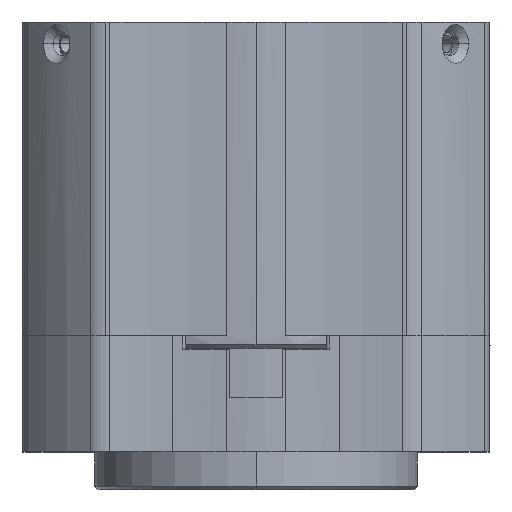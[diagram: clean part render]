
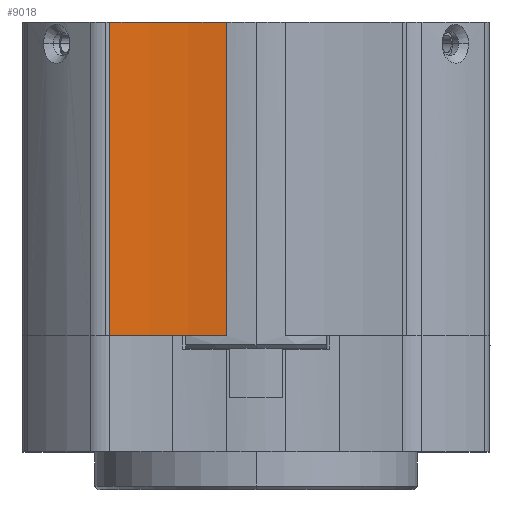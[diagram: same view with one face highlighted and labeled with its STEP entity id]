
A CAD part, top view. The second image highlights one B-rep face of the part: STEP entity #9018.
In plain terms, the highlighted cylindrical face has radius 40 mm (diameter 80 mm), a partial arc.
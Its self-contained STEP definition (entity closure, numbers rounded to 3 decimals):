
#225 = CARTESIAN_POINT ( 'NONE',  ( -13.595, 0., 21.687 ) ) ;
#1038 = CARTESIAN_POINT ( 'NONE',  ( -2.735, -1.2, 21.577 ) ) ;
#2282 = DIRECTION ( 'NONE',  ( 0., 1., 0. ) ) ;
#4067 = EDGE_LOOP ( 'NONE', ( #17159, #22544, #19550, #10196 ) ) ;
#5237 = DIRECTION ( 'NONE',  ( 0., 1., 0. ) ) ;
#7386 = DIRECTION ( 'NONE',  ( 0., -1., 0. ) ) ;
#7564 = EDGE_CURVE ( 'NONE', #25476, #40590, #43011, .T. ) ;
#9018 = ADVANCED_FACE ( 'NONE', ( #42411 ), #21890, .F. ) ;
#10196 = ORIENTED_EDGE ( 'NONE', *, *, #21429, .F. ) ;
#10234 = CARTESIAN_POINT ( 'NONE',  ( -7.764, 29.1, 61.26 ) ) ;
#13615 = DIRECTION ( 'NONE',  ( 0., -1., 0. ) ) ;
#14948 = LINE ( 'NONE', #1038, #16869 ) ;
#15106 = DIRECTION ( 'NONE',  ( 0., 0., 1. ) ) ;
#15310 = DIRECTION ( 'NONE',  ( 0., 0., 1. ) ) ;
#15527 = CARTESIAN_POINT ( 'NONE',  ( -7.764, -1.2, 61.26 ) ) ;
#15767 = EDGE_CURVE ( 'NONE', #40590, #30639, #14948, .T. ) ;
#16869 = VECTOR ( 'NONE', #5237, 1000. ) ;
#16958 = LINE ( 'NONE', #20032, #19261 ) ;
#17159 = ORIENTED_EDGE ( 'NONE', *, *, #7564, .T. ) ;
#19261 = VECTOR ( 'NONE', #33410, 1000. ) ;
#19550 = ORIENTED_EDGE ( 'NONE', *, *, #21003, .F. ) ;
#20032 = CARTESIAN_POINT ( 'NONE',  ( -13.595, -1.2, 21.687 ) ) ;
#21003 = EDGE_CURVE ( 'NONE', #38226, #30639, #30481, .T. ) ;
#21429 = EDGE_CURVE ( 'NONE', #25476, #38226, #16958, .T. ) ;
#21890 = CYLINDRICAL_SURFACE ( 'NONE', #37510, 40. ) ;
#22544 = ORIENTED_EDGE ( 'NONE', *, *, #15767, .T. ) ;
#22802 = CARTESIAN_POINT ( 'NONE',  ( -13.595, 29.1, 21.687 ) ) ;
#23652 = CARTESIAN_POINT ( 'NONE',  ( -2.735, 0., 21.577 ) ) ;
#24035 = AXIS2_PLACEMENT_3D ( 'NONE', #41099, #7386, #15106 ) ;
#25476 = VERTEX_POINT ( 'NONE', #225 ) ;
#26982 = AXIS2_PLACEMENT_3D ( 'NONE', #10234, #13615, #41118 ) ;
#30481 = CIRCLE ( 'NONE', #26982, 40. ) ;
#30639 = VERTEX_POINT ( 'NONE', #34726 ) ;
#33410 = DIRECTION ( 'NONE',  ( 0., 1., 0. ) ) ;
#34726 = CARTESIAN_POINT ( 'NONE',  ( -2.735, 29.1, 21.577 ) ) ;
#37510 = AXIS2_PLACEMENT_3D ( 'NONE', #15527, #2282, #15310 ) ;
#38226 = VERTEX_POINT ( 'NONE', #22802 ) ;
#40590 = VERTEX_POINT ( 'NONE', #23652 ) ;
#41099 = CARTESIAN_POINT ( 'NONE',  ( -7.764, 0., 61.26 ) ) ;
#41118 = DIRECTION ( 'NONE',  ( 0., 0., 1. ) ) ;
#42411 = FACE_OUTER_BOUND ( 'NONE', #4067, .T. ) ;
#43011 = CIRCLE ( 'NONE', #24035, 40. ) ;
